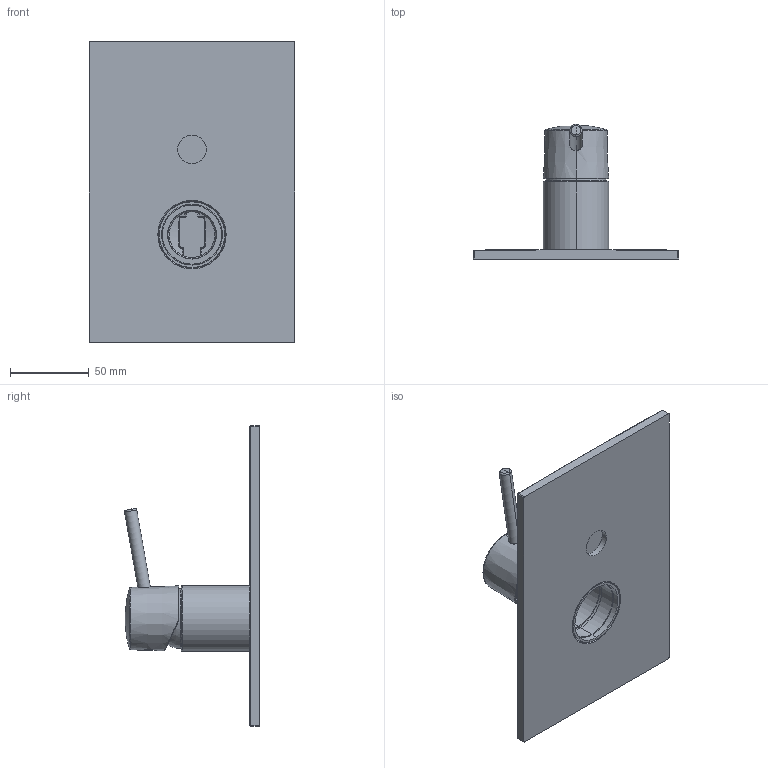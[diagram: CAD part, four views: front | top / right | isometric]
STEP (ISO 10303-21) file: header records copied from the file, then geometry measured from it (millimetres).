
FILE_DESCRIPTION((''),'2;1');
FILE_NAME('14753--00_ASM','2023-02-15T14:11:02',('sosm1'),(''),'CREO PARAMETRIC BY PTC INC, 2022244','CREO PARAMETRIC BY PTC INC, 2022244','');
FILE_SCHEMA(('CONFIG_CONTROL_DESIGN'));
Length unit declared in the file: millimetre
Products named in the file (16): 43956--_AF2; 43968--_AF2_ASM; 43963--_AF2; 43966--_AF2; 43967--_AF2; 44004--_AF0; 4396500; 44004--_SUB01_AF0_ASM; 14753--00_SUB01_AF1_ASM; 43875--_CAST_AF3; 4900100_AF2; 43958--_AF2; 43876--_2; 43875--_AF2_ASM; 42347--; 14753--00_ASM
Assembly tree (15 placements, depth 4):
  14753--00_ASM
    14753--00_SUB01_AF1_ASM
      43968--_AF2_ASM
        43956--_AF2
      43963--_AF2
      43966--_AF2
      43967--_AF2
      44004--_SUB01_AF0_ASM
        44004--_AF0
        4396500
    43875--_AF2_ASM
      43875--_CAST_AF3
      4900100_AF2
      43958--_AF2
      43876--_2
    42347--
Bounding box: 130 x 85.34 x 190 mm (x, y, z)
Volume: 164708.5 mm3; surface area: 79105.4 mm2
Topology: 9 solids, 9 shells, 368 faces, 853 edges, 501 vertices
Faces by surface type: cylinder 93, bspline 78, plane 76, torus 54, sphere 37, cone 30
Entity records: 15069 total; most frequent: CARTESIAN_POINT 6864, ORIENTED_EDGE 1682, DIRECTION 1680, EDGE_CURVE 841, AXIS2_PLACEMENT_3D 744, VERTEX_POINT 501, CIRCLE 411, EDGE_LOOP 392
